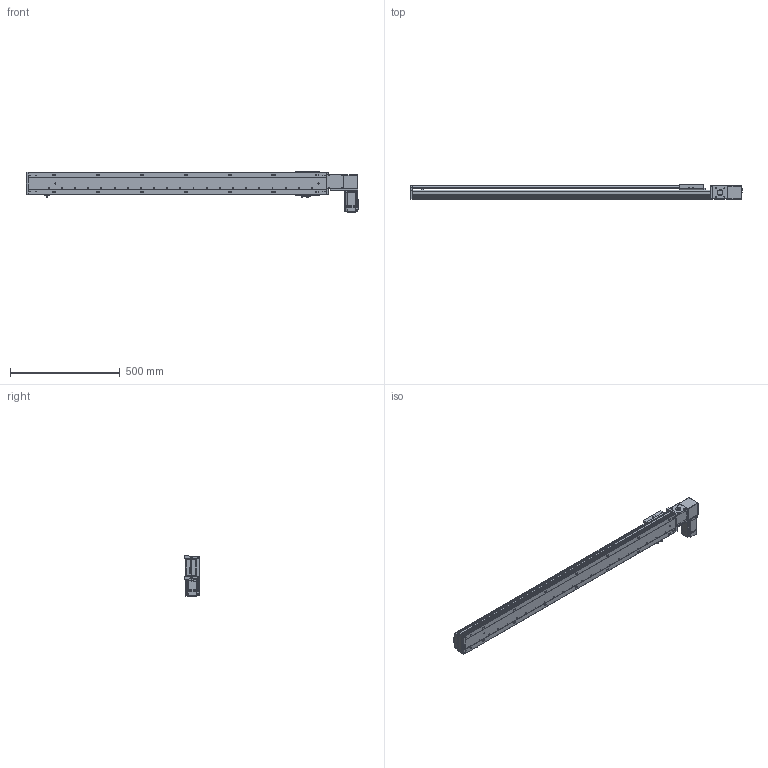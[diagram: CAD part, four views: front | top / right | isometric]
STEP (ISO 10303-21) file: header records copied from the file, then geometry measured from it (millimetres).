
FILE_DESCRIPTION (( 'STEP AP203' ), '1' );
FILE_NAME ('RY100-T-300-LK.SLDASM_1150.step', '2024-04-25T05:37:43', ( '盈信电脑' ), ( '东莞市道滘镇水果街19号' ), 'SwSTEP 2.0', 'SolidWorks 2016', '' );
FILE_SCHEMA (( 'CONFIG_CONTROL_DESIGN' ));
Length unit declared in the file: millimetre
Products named in the file (13): RY100-T翋肮祭謫裔啣2; RY100-T肮祭謫翋盓傅釱; 覜茼ん672; 1; RY100-T-300-LK.SLDASM_1150; RY100-T左右折电机安装板; RY100俋离覜茼え; RY100-T-300-RK倰第菁釱_1150; RY100-T肮祭謫臏賑輸; RY80-T肮祭謫俋欶; RY100-T-300-RK倰第奻裔_1050; RY100綴裔啣; 滅袉蝶18-10
Assembly tree (16 placements, depth 2):
  RY100-T-300-LK.SLDASM_1150
    RY100-T-300-RK倰第菁釱_1150
    RY100-T-300-RK倰第奻裔_1050
    RY100-T肮祭謫臏賑輸
    RY100綴裔啣
    覜茼ん672  x3
    RY100俋离覜茼え
    RY100-T肮祭謫翋盓傅釱
    滅袉蝶18-10  x2
    RY100-T翋肮祭謫裔啣2  x2
    RY80-T肮祭謫俋欶
    RY100-T左右折电机安装板
    1
Bounding box: 1514 x 66 x 182.5 mm (x, y, z)
Volume: 2825934.9 mm3; surface area: 1147334.8 mm2
Topology: 16 solids, 16 shells, 2154 faces, 6009 edges, 3905 vertices
Faces by surface type: plane 1174, cylinder 771, cone 131, bspline 78
Entity records: 68703 total; most frequent: CARTESIAN_POINT 16693, ORIENTED_EDGE 10754, DIRECTION 10201, EDGE_CURVE 5377, VERTEX_POINT 3541, VECTOR 3489, LINE 3489, AXIS2_PLACEMENT_3D 3356
